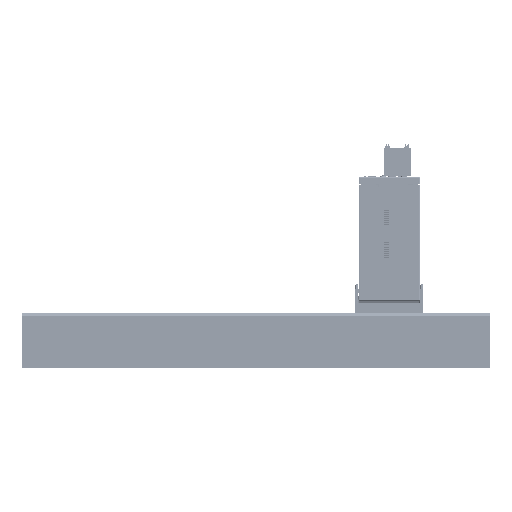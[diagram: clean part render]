
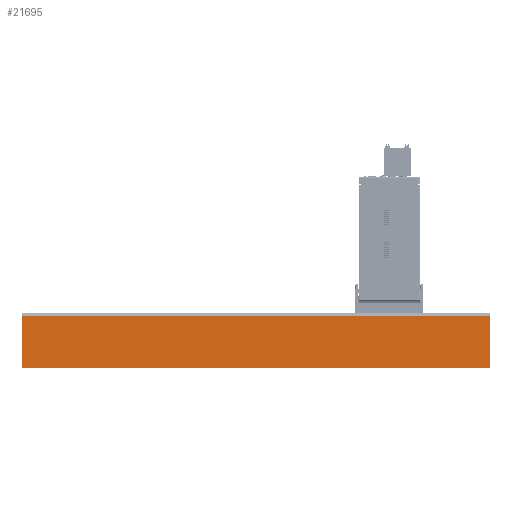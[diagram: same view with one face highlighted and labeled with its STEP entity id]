
A CAD part, left-side view. The second image highlights one B-rep face of the part: STEP entity #21695.
In plain terms, the highlighted planar face has unit normal (-1, 0, 0).
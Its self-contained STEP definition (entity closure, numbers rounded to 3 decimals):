
#11949=PLANE('',#195203);
#21695=ADVANCED_FACE('',(#31324),#11949,.T.);
#31324=FACE_OUTER_BOUND('',#42025,.T.);
#42025=EDGE_LOOP('',(#135758,#135759,#135760,#135761));
#62143=LINE('',#325153,#80481);
#62144=LINE('',#325156,#80482);
#62145=LINE('',#325158,#80483);
#62146=LINE('',#325160,#80484);
#80481=VECTOR('',#242825,1.);
#80482=VECTOR('',#242826,1.);
#80483=VECTOR('',#242827,1.);
#80484=VECTOR('',#242828,1.);
#135758=ORIENTED_EDGE('',*,*,#179054,.T.);
#135759=ORIENTED_EDGE('',*,*,#179055,.F.);
#135760=ORIENTED_EDGE('',*,*,#179056,.T.);
#135761=ORIENTED_EDGE('',*,*,#179057,.F.);
#153490=VERTEX_POINT('',#325154);
#153491=VERTEX_POINT('',#325155);
#153492=VERTEX_POINT('',#325157);
#153493=VERTEX_POINT('',#325159);
#179054=EDGE_CURVE('',#153490,#153491,#62143,.T.);
#179055=EDGE_CURVE('',#153492,#153491,#62144,.T.);
#179056=EDGE_CURVE('',#153492,#153493,#62145,.T.);
#179057=EDGE_CURVE('',#153490,#153493,#62146,.T.);
#195203=AXIS2_PLACEMENT_3D('',#325161,#242829,#242830);
#242825=DIRECTION('',(0.,-1.,0.));
#242826=DIRECTION('',(0.,0.,-1.));
#242827=DIRECTION('',(0.,1.,0.));
#242828=DIRECTION('',(0.,0.,1.));
#242829=DIRECTION('',(-1.,0.,0.));
#242830=DIRECTION('',(0.,0.,1.));
#325153=CARTESIAN_POINT('',(870.05,67.12,-26.5));
#325154=CARTESIAN_POINT('',(870.05,89.26,-26.5));
#325155=CARTESIAN_POINT('',(870.05,-136.74,-26.5));
#325156=CARTESIAN_POINT('',(870.05,-136.74,0.));
#325157=CARTESIAN_POINT('',(870.05,-136.74,-1.1));
#325158=CARTESIAN_POINT('',(870.05,151.369,-1.1));
#325159=CARTESIAN_POINT('',(870.05,89.26,-1.1));
#325160=CARTESIAN_POINT('',(870.05,89.26,-216.212));
#325161=CARTESIAN_POINT('',(870.05,151.369,0.));
